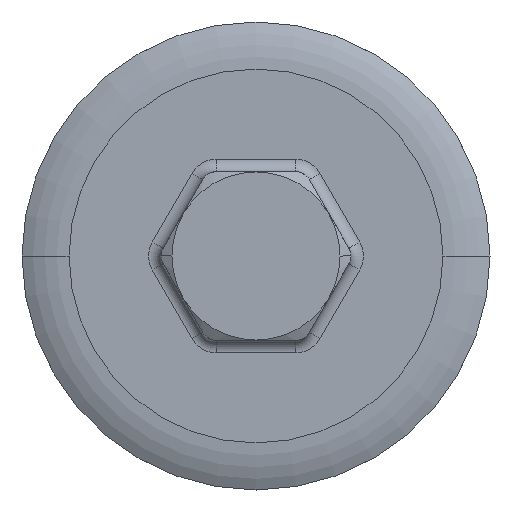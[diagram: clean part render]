
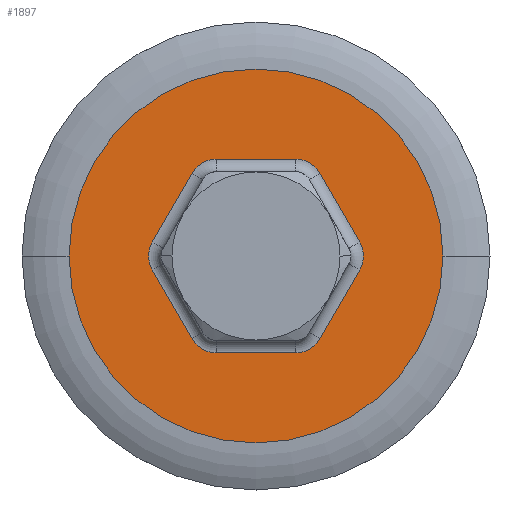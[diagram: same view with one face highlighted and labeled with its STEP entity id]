
A CAD part, front view. The second image highlights one B-rep face of the part: STEP entity #1897.
In plain terms, the highlighted planar face has unit normal (0, -1, 0).
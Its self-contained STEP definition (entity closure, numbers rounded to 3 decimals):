
#370=DIRECTION('',(1.,0.,0.));
#371=VECTOR('',#370,12.713);
#372=CARTESIAN_POINT('',(0.344,-181.848,
-15.51));
#373=LINE('',#372,#371);
#470=DIRECTION('',(-1.,0.,0.));
#471=VECTOR('',#470,12.713);
#472=CARTESIAN_POINT('',(13.057,-181.848,15.51));
#473=LINE('',#472,#471);
#546=CARTESIAN_POINT('',(6.701,-181.848,
0.));
#547=DIRECTION('',(0.,-1.,0.));
#548=DIRECTION('',(-1.,0.,0.));
#549=AXIS2_PLACEMENT_3D('',#546,#547,#548);
#554=CARTESIAN_POINT('',(6.701,-181.848,
0.));
#555=DIRECTION('',(0.,-1.,0.));
#556=DIRECTION('',(1.,0.,0.));
#557=AXIS2_PLACEMENT_3D('',#554,#555,#556);
#562=DIRECTION('',(-0.5,0.,-0.866));
#563=VECTOR('',#562,12.713);
#564=CARTESIAN_POINT('',(23.311,-181.848,-2.25));
#565=LINE('',#564,#563);
#569=CARTESIAN_POINT('',(19.414,-181.848,0.));
#570=DIRECTION('',(0.,1.,0.));
#571=DIRECTION('',(0.866,0.,0.5));
#572=AXIS2_PLACEMENT_3D('',#569,#570,#571);
#577=DIRECTION('',(0.5,0.,-0.866));
#578=VECTOR('',#577,12.713);
#579=CARTESIAN_POINT('',(16.955,-181.848,13.26));
#580=LINE('',#579,#578);
#584=CARTESIAN_POINT('',(13.057,-181.848,11.01));
#585=DIRECTION('',(0.,1.,0.));
#586=DIRECTION('',(0.,0.,1.));
#587=AXIS2_PLACEMENT_3D('',#584,#585,#586);
#592=CARTESIAN_POINT('',(0.344,-181.848,11.01));
#593=DIRECTION('',(0.,1.,0.));
#594=DIRECTION('',(-0.866,0.,0.5));
#595=AXIS2_PLACEMENT_3D('',#592,#593,#594);
#600=DIRECTION('',(0.5,0.,0.866));
#601=VECTOR('',#600,12.713);
#602=CARTESIAN_POINT('',(-9.91,-181.848,2.25));
#603=LINE('',#602,#601);
#607=CARTESIAN_POINT('',(-6.012,-181.848,
0.));
#608=DIRECTION('',(0.,1.,0.));
#609=DIRECTION('',(-0.866,0.,-0.5));
#610=AXIS2_PLACEMENT_3D('',#607,#608,#609);
#615=DIRECTION('',(-0.5,0.,0.866));
#616=VECTOR('',#615,12.713);
#617=CARTESIAN_POINT('',(-3.553,-181.848,
-13.26));
#618=LINE('',#617,#616);
#622=CARTESIAN_POINT('',(0.344,-181.848,
-11.01));
#623=DIRECTION('',(0.,1.,0.));
#624=DIRECTION('',(0.,0.,-1.));
#625=AXIS2_PLACEMENT_3D('',#622,#623,#624);
#630=CARTESIAN_POINT('',(13.057,-181.848,-11.01));
#631=DIRECTION('',(0.,1.,0.));
#632=DIRECTION('',(0.866,0.,-0.5));
#633=AXIS2_PLACEMENT_3D('',#630,#631,#632);
#1290=CARTESIAN_POINT('',(23.311,-181.848,-2.25));
#1291=CARTESIAN_POINT('',(16.955,-181.848,
-13.26));
#1292=VERTEX_POINT('',#1290);
#1293=VERTEX_POINT('',#1291);
#1294=CARTESIAN_POINT('',(13.057,-181.848,
-15.51));
#1295=VERTEX_POINT('',#1294);
#1296=CARTESIAN_POINT('',(0.344,-181.848,
-15.51));
#1297=VERTEX_POINT('',#1296);
#1298=CARTESIAN_POINT('',(-3.553,-181.848,
-13.26));
#1299=VERTEX_POINT('',#1298);
#1300=CARTESIAN_POINT('',(-9.91,-181.848,-2.25));
#1301=VERTEX_POINT('',#1300);
#1302=CARTESIAN_POINT('',(-9.909,-181.848,
2.25));
#1303=VERTEX_POINT('',#1302);
#1304=CARTESIAN_POINT('',(-3.553,-181.848,
13.26));
#1305=VERTEX_POINT('',#1304);
#1306=CARTESIAN_POINT('',(0.344,-181.848,
15.51));
#1307=VERTEX_POINT('',#1306);
#1308=CARTESIAN_POINT('',(13.057,-181.848,15.51));
#1309=VERTEX_POINT('',#1308);
#1310=CARTESIAN_POINT('',(16.954,-181.848,13.26));
#1311=VERTEX_POINT('',#1310);
#1312=CARTESIAN_POINT('',(23.311,-181.848,2.25));
#1313=VERTEX_POINT('',#1312);
#1426=CARTESIAN_POINT('',(-23.257,-181.848,
0.));
#1427=VERTEX_POINT('',#1426);
#1428=CARTESIAN_POINT('',(36.659,-181.848,
0.));
#1429=VERTEX_POINT('',#1428);
#1872=CARTESIAN_POINT('',(6.701,-181.848,
0.));
#1873=DIRECTION('',(0.,1.,0.));
#1874=DIRECTION('',(0.,0.,1.));
#1875=AXIS2_PLACEMENT_3D('',#1872,#1873,#1874);
#1876=PLANE('',#1875);
#1878=ORIENTED_EDGE('',*,*,#1877,.F.);
#1880=ORIENTED_EDGE('',*,*,#1879,.F.);
#1881=EDGE_LOOP('',(#1878,#1880));
#1882=FACE_OUTER_BOUND('',#1881,.F.);
#1883=ORIENTED_EDGE('',*,*,#1754,.F.);
#1884=ORIENTED_EDGE('',*,*,#1768,.F.);
#1885=ORIENTED_EDGE('',*,*,#1782,.F.);
#1886=ORIENTED_EDGE('',*,*,#1796,.F.);
#1887=ORIENTED_EDGE('',*,*,#1810,.T.);
#1888=ORIENTED_EDGE('',*,*,#1824,.F.);
#1889=ORIENTED_EDGE('',*,*,#1838,.F.);
#1890=ORIENTED_EDGE('',*,*,#1852,.F.);
#1891=ORIENTED_EDGE('',*,*,#1865,.F.);
#1892=ORIENTED_EDGE('',*,*,#1711,.F.);
#1893=ORIENTED_EDGE('',*,*,#1726,.T.);
#1894=ORIENTED_EDGE('',*,*,#1740,.F.);
#1895=EDGE_LOOP('',(#1883,#1884,#1885,#1886,#1887,#1888,#1889,#1890,#1891,#1892,
#1893,#1894));
#1896=FACE_BOUND('',#1895,.F.);
#550=CIRCLE('',#549,29.958);
#558=CIRCLE('',#557,29.958);
#573=CIRCLE('',#572,4.5);
#588=CIRCLE('',#587,4.5);
#596=CIRCLE('',#595,4.5);
#611=CIRCLE('',#610,4.5);
#626=CIRCLE('',#625,4.5);
#634=CIRCLE('',#633,4.5);
#1711=EDGE_CURVE('',#1297,#1299,#626,.T.);
#1726=EDGE_CURVE('',#1297,#1295,#373,.T.);
#1740=EDGE_CURVE('',#1293,#1295,#634,.T.);
#1754=EDGE_CURVE('',#1292,#1293,#565,.T.);
#1768=EDGE_CURVE('',#1313,#1292,#573,.T.);
#1782=EDGE_CURVE('',#1311,#1313,#580,.T.);
#1796=EDGE_CURVE('',#1309,#1311,#588,.T.);
#1810=EDGE_CURVE('',#1309,#1307,#473,.T.);
#1824=EDGE_CURVE('',#1305,#1307,#596,.T.);
#1838=EDGE_CURVE('',#1303,#1305,#603,.T.);
#1852=EDGE_CURVE('',#1301,#1303,#611,.T.);
#1865=EDGE_CURVE('',#1299,#1301,#618,.T.);
#1877=EDGE_CURVE('',#1427,#1429,#550,.T.);
#1879=EDGE_CURVE('',#1429,#1427,#558,.T.);
#1897=ADVANCED_FACE('',(#1882,#1896),#1876,.F.);
